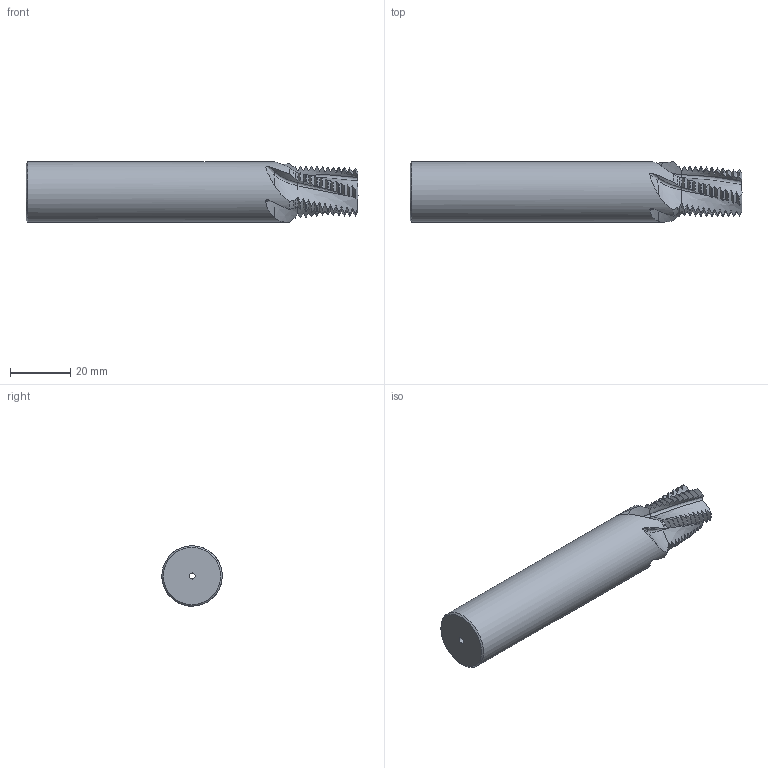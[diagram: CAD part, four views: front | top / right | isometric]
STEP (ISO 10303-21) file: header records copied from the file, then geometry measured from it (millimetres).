
FILE_DESCRIPTION(/* description */ (''),/* implementation_level */ '2;1');
FILE_NAME(/* name */ '170761-00035712-STEP',/* time_stamp */ '2024-02-21T11:47:20+01:00',/* author */ (''),/* organization */ (''),/* preprocessor_version */ 'ST-DEVELOPER v16.5',/* originating_system */ 'HiCAD 2017 2201.0 Build 268',/* authorisation */ '');
FILE_SCHEMA (('AUTOMOTIVE_DESIGN { 1 0 10303 214 1 1 1 1 }'));
Products named in the file (2): Root; ROTATIONSTEIL_0
Assembly tree (1 placements, depth 2):
  Root
    ROTATIONSTEIL_0
Bounding box: 110 x 19.98 x 19.99 mm (x, y, z)
Volume: 29415.7 mm3; surface area: 8384.5 mm2
Topology: 1 solids, 1 shells, 290 faces, 956 edges, 668 vertices
Faces by surface type: cone 126, torus 110, bspline 45, cylinder 7, plane 2
Full cylindrical faces by diameter (mm): 2 x1, 20 x1
Entity records: 40702 total; most frequent: CARTESIAN_POINT 24775, PRESENTATION_STYLE_ASSIGNMENT 1903, COLOUR_RGB 1903, DRAUGHTING_PRE_DEFINED_CURVE_FONT 1902, CURVE_STYLE 1902, OVER_RIDING_STYLED_ITEM 1902, ORIENTED_EDGE 1902, DIRECTION 992
